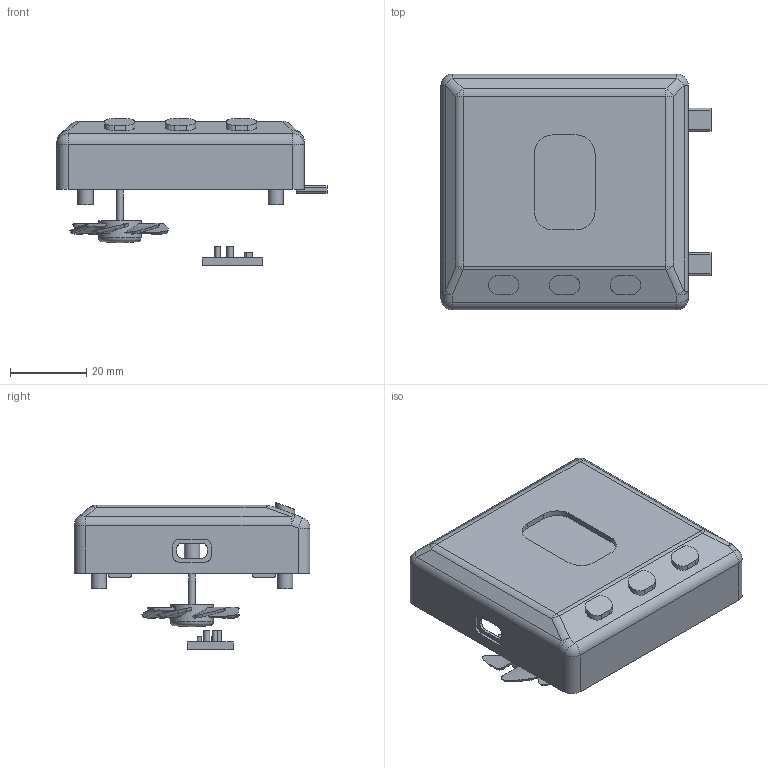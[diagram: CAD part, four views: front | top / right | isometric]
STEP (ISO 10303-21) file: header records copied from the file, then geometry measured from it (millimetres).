
FILE_DESCRIPTION(/* description */ (''),/* implementation_level */ '2;1');
FILE_NAME(/* name */ '样题3.stp',/* time_stamp */ '2021-03-16T12:53:13+08:00',/* author */ (''),/* organization */ (''),/* preprocessor_version */ 'ST-DEVELOPER v16',/* originating_system */ 'SIEMENS PLM Software NX 10.0',/* authorisation */ '');
FILE_SCHEMA (('AUTOMOTIVE_DESIGN { 1 0 10303 214 3 1 1 1 }'));
Length unit declared in the file: millimetre
Products named in the file (7): 电器元件; 外接件1; 风扇; 屏幕1; 电路板1; 按钮; 样题3
Assembly tree (8 placements, depth 2):
  样题3
    按钮  x3
    电路板1
    屏幕1
    风扇
    外接件1
    电器元件
Bounding box: 71 x 62 x 38.68 mm (x, y, z)
Volume: 14323.5 mm3; surface area: 21491.5 mm2
Topology: 10 solids, 11 shells, 386 faces, 966 edges, 609 vertices
Faces by surface type: plane 184, cylinder 118, bspline 56, sphere 27, torus 1
Full cylindrical faces by diameter (mm): 1.195 x1, 1.385 x1, 1.647 x1, 1.717 x1, 1.764 x2, 2 x4, 3.92 x1, 4 x5, 8.96 x1, 11.2 x1
Entity records: 13566 total; most frequent: CARTESIAN_POINT 4975, ORIENTED_EDGE 1784, DIRECTION 1647, EDGE_CURVE 892, AXIS2_PLACEMENT_3D 592, VERTEX_POINT 578, LINE 463, VECTOR 463
